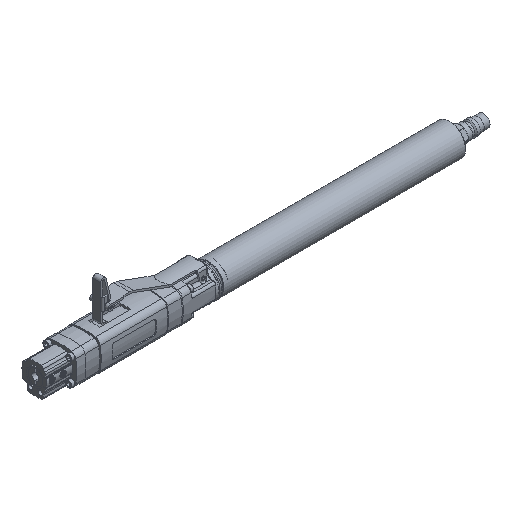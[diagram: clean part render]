
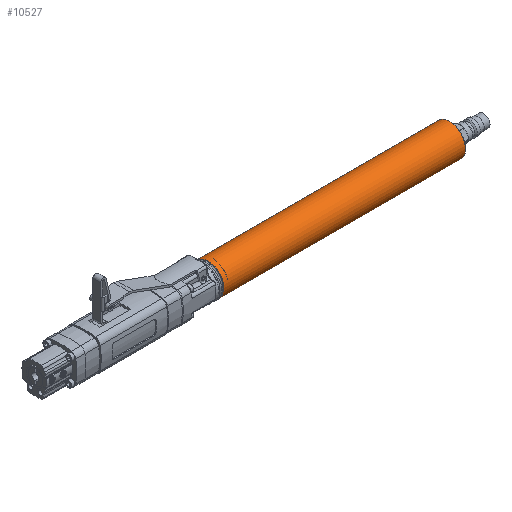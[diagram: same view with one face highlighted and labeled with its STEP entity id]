
A CAD part, isometric view. The second image highlights one B-rep face of the part: STEP entity #10527.
In plain terms, the highlighted cylindrical face has radius 13.9 mm (diameter 27.8 mm), a full revolution.
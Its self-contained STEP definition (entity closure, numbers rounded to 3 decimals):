
#1013=FACE_OUTER_BOUND('',#1669,.T.);
#1669=EDGE_LOOP('',(#9057,#9058,#9059,#9060,#9061));
#2240=CIRCLE('',#11614,13.9);
#2241=CIRCLE('',#11616,13.9);
#2242=CIRCLE('',#11617,13.9);
#3114=LINE('',#24717,#3880);
#3880=VECTOR('',#14286,13.9);
#4873=VERTEX_POINT('',#24710);
#4874=VERTEX_POINT('',#24713);
#4875=VERTEX_POINT('',#24714);
#6306=EDGE_CURVE('',#4873,#4873,#2240,.T.);
#6307=EDGE_CURVE('',#4874,#4875,#2241,.T.);
#6308=EDGE_CURVE('',#4875,#4874,#2242,.T.);
#6309=EDGE_CURVE('',#4875,#4873,#3114,.T.);
#9057=ORIENTED_EDGE('',*,*,#6307,.F.);
#9058=ORIENTED_EDGE('',*,*,#6308,.F.);
#9059=ORIENTED_EDGE('',*,*,#6309,.T.);
#9060=ORIENTED_EDGE('',*,*,#6306,.T.);
#9061=ORIENTED_EDGE('',*,*,#6309,.F.);
#10000=CYLINDRICAL_SURFACE('',#11615,13.9);
#10527=ADVANCED_FACE('',(#1013),#10000,.T.);
#11614=AXIS2_PLACEMENT_3D('',#24711,#14278,#14279);
#11615=AXIS2_PLACEMENT_3D('',#24712,#14280,#14281);
#11616=AXIS2_PLACEMENT_3D('',#24715,#14282,#14283);
#11617=AXIS2_PLACEMENT_3D('',#24716,#14284,#14285);
#14278=DIRECTION('center_axis',(-1.,0.,0.));
#14279=DIRECTION('ref_axis',(0.,-1.,0.));
#14280=DIRECTION('center_axis',(-1.,0.,0.));
#14281=DIRECTION('ref_axis',(0.,0.,-1.));
#14282=DIRECTION('center_axis',(-1.,0.,0.));
#14283=DIRECTION('ref_axis',(0.,-1.,0.));
#14284=DIRECTION('center_axis',(-1.,0.,0.));
#14285=DIRECTION('ref_axis',(0.,-1.,0.));
#14286=DIRECTION('',(1.,0.,0.));
#24710=CARTESIAN_POINT('',(364.2,0.,12.6));
#24711=CARTESIAN_POINT('Origin',(364.2,0.,-1.3));
#24712=CARTESIAN_POINT('Origin',(257.84,0.,-1.3));
#24713=CARTESIAN_POINT('',(151.48,13.9,-1.3));
#24714=CARTESIAN_POINT('',(151.48,0.,12.6));
#24715=CARTESIAN_POINT('Origin',(151.48,0.,-1.3));
#24716=CARTESIAN_POINT('Origin',(151.48,0.,-1.3));
#24717=CARTESIAN_POINT('',(257.84,0.,12.6));
